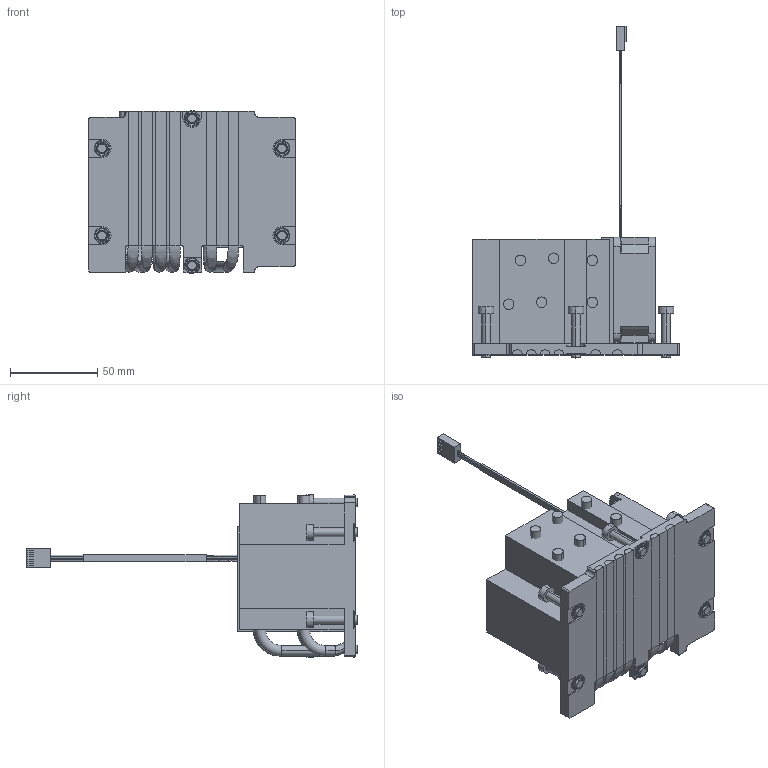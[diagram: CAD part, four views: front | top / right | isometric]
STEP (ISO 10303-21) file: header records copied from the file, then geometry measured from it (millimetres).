
FILE_DESCRIPTION (( 'STEP AP214' ), '1' );
FILE_NAME ('RGE220-SN ME.STEP', '2023-07-24T10:00:56', ( '' ), ( '' ), 'SwSTEP 2.0', 'SolidWorks 2019', '' );
FILE_SCHEMA (( 'AUTOMOTIVE_DESIGN' ));
Length unit declared in the file: millimetre
Products named in the file (21): RGE220-SN-Screw ME; RGE220-SN-Fan asm ME; RGE220-SN_ME; RGE220-SN_Heat Pipe-1; RGE220-SN_Heat Pipe-2; RGE220-SN_Fan Cover; RGE220-SN_Heat Pipe-5; M3X8L_SCREW^RGE220-SN-Fan asm ME; LABEL_R30_1^RGE220-SN-Fan asm ME; RGE220-SN_Heat Pipe-3; RGE220-SN_Heat Pipe-4; RGE220-SN ME; RGE220-SN_O_Ring; RGE220-SN_SpringScrew; FAN_PF60251BX-Q101-S99_^RGE220-SN-Fan asm ME; RGE220-SN_Heat Pipe-6
Assembly tree (33 placements, depth 3):
  RGE220-SN ME
    RGE220-SN-Screw ME
      RGE220-SN_SpringScrew
      RGE220-SN_O_Ring
    RGE220-SN-Screw ME
      RGE220-SN_SpringScrew
      RGE220-SN_O_Ring
    RGE220-SN-Screw ME
      RGE220-SN_SpringScrew
      RGE220-SN_O_Ring
    RGE220-SN-Screw ME
      RGE220-SN_SpringScrew
      RGE220-SN_O_Ring
    RGE220-SN-Screw ME
      RGE220-SN_SpringScrew
      RGE220-SN_O_Ring
    RGE220-SN-Screw ME
      RGE220-SN_SpringScrew
      RGE220-SN_O_Ring
    RGE220-SN_Heat Pipe-1
    RGE220-SN_Heat Pipe-2
    RGE220-SN_Heat Pipe-3
    RGE220-SN_Heat Pipe-4
    RGE220-SN_Heat Pipe-5
    RGE220-SN_Heat Pipe-6
    RGE220-SN_Fan Cover
    RGE220-SN-Fan asm ME
      FAN_PF60251BX-Q101-S99_^RGE220-SN-Fan asm ME
      LABEL_R30_1^RGE220-SN-Fan asm ME
      M3X8L_SCREW^RGE220-SN-Fan asm ME  x4
    RGE220-SN_ME
Bounding box: 118 x 189.85 x 93.2 mm (x, y, z)
Volume: 457485 mm3; surface area: 102195.8 mm2
Topology: 26 solids, 26 shells, 1716 faces, 4365 edges, 2778 vertices
Faces by surface type: plane 614, bspline 460, cylinder 324, cone 190, torus 128
Entity records: 40467 total; most frequent: CARTESIAN_POINT 16298, ORIENTED_EDGE 5242, DIRECTION 4142, EDGE_CURVE 2621, VERTEX_POINT 1717, VECTOR 1620, LINE 1620, AXIS2_PLACEMENT_3D 1261
